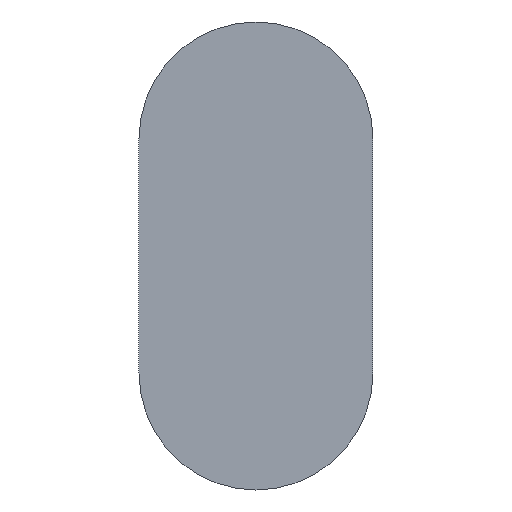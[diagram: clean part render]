
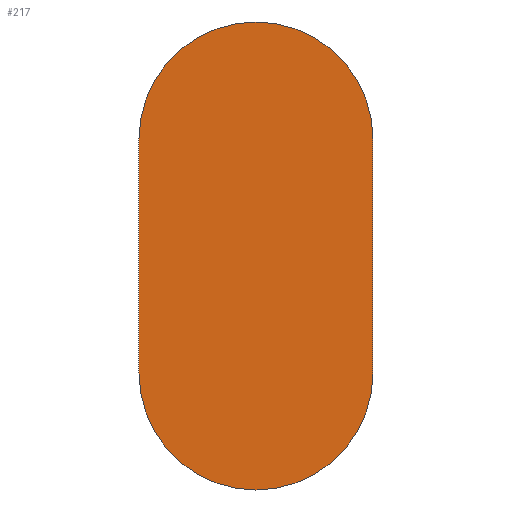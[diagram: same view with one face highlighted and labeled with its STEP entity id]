
A CAD part, front view. The second image highlights one B-rep face of the part: STEP entity #217.
In plain terms, the highlighted planar face has unit normal (0, -1, 0).
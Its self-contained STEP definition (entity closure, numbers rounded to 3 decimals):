
#2 = ORIENTED_EDGE ( 'NONE', *, *, #37, .T. ) ;
#11 = AXIS2_PLACEMENT_3D ( 'NONE', #149, #143, #14 ) ;
#14 = DIRECTION ( 'NONE',  ( 0., 0., -1. ) ) ;
#17 = FACE_OUTER_BOUND ( 'NONE', #341, .T. ) ;
#18 = VERTEX_POINT ( 'NONE', #42 ) ;
#29 = VERTEX_POINT ( 'NONE', #102 ) ;
#37 = EDGE_CURVE ( 'NONE', #60, #29, #190, .T. ) ;
#42 = CARTESIAN_POINT ( 'NONE',  ( -5., -3., 0. ) ) ;
#45 = AXIS2_PLACEMENT_3D ( 'NONE', #329, #47, #104 ) ;
#47 = DIRECTION ( 'NONE',  ( 0., -1., 0. ) ) ;
#50 = EDGE_CURVE ( 'NONE', #89, #372, #252, .T. ) ;
#60 = VERTEX_POINT ( 'NONE', #68 ) ;
#68 = CARTESIAN_POINT ( 'NONE',  ( 5., -3., 0. ) ) ;
#71 = EDGE_CURVE ( 'NONE', #18, #89, #267, .T. ) ;
#84 = DIRECTION ( 'NONE',  ( 0., 0., -1. ) ) ;
#89 = VERTEX_POINT ( 'NONE', #301 ) ;
#102 = CARTESIAN_POINT ( 'NONE',  ( 0., -3., 5. ) ) ;
#104 = DIRECTION ( 'NONE',  ( 0., 0., -1. ) ) ;
#113 = PLANE ( 'NONE',  #385 ) ;
#143 = DIRECTION ( 'NONE',  ( 0., -1., 0. ) ) ;
#149 = CARTESIAN_POINT ( 'NONE',  ( 0., -3., 0. ) ) ;
#169 = LINE ( 'NONE', #189, #243 ) ;
#172 = VECTOR ( 'NONE', #289, 1000. ) ;
#177 = CARTESIAN_POINT ( 'NONE',  ( 0., -3., -10. ) ) ;
#189 = CARTESIAN_POINT ( 'NONE',  ( 5., -3., 0. ) ) ;
#190 = CIRCLE ( 'NONE', #11, 5. ) ;
#197 = CIRCLE ( 'NONE', #45, 5. ) ;
#217 = ADVANCED_FACE ( 'NONE', ( #17 ), #113, .T. ) ;
#220 = CARTESIAN_POINT ( 'NONE',  ( 0., -3., 0. ) ) ;
#221 = ORIENTED_EDGE ( 'NONE', *, *, #315, .F. ) ;
#231 = DIRECTION ( 'NONE',  ( 0., 0., -1. ) ) ;
#243 = VECTOR ( 'NONE', #285, 1000. ) ;
#252 = CIRCLE ( 'NONE', #295, 5. ) ;
#259 = CARTESIAN_POINT ( 'NONE',  ( 5., -3., -10. ) ) ;
#267 = LINE ( 'NONE', #357, #172 ) ;
#284 = ORIENTED_EDGE ( 'NONE', *, *, #71, .T. ) ;
#285 = DIRECTION ( 'NONE',  ( 0., 0., -1. ) ) ;
#289 = DIRECTION ( 'NONE',  ( 0., 0., -1. ) ) ;
#295 = AXIS2_PLACEMENT_3D ( 'NONE', #177, #328, #231 ) ;
#301 = CARTESIAN_POINT ( 'NONE',  ( -5., -3., -10. ) ) ;
#315 = EDGE_CURVE ( 'NONE', #60, #372, #169, .T. ) ;
#328 = DIRECTION ( 'NONE',  ( 0., -1., 0. ) ) ;
#329 = CARTESIAN_POINT ( 'NONE',  ( 0., -3., 0. ) ) ;
#334 = DIRECTION ( 'NONE',  ( 0., -1., 0. ) ) ;
#340 = ORIENTED_EDGE ( 'NONE', *, *, #50, .T. ) ;
#341 = EDGE_LOOP ( 'NONE', ( #284, #340, #221, #2, #367 ) ) ;
#357 = CARTESIAN_POINT ( 'NONE',  ( -5., -3., 0. ) ) ;
#367 = ORIENTED_EDGE ( 'NONE', *, *, #396, .T. ) ;
#372 = VERTEX_POINT ( 'NONE', #259 ) ;
#385 = AXIS2_PLACEMENT_3D ( 'NONE', #220, #334, #84 ) ;
#396 = EDGE_CURVE ( 'NONE', #29, #18, #197, .T. ) ;
